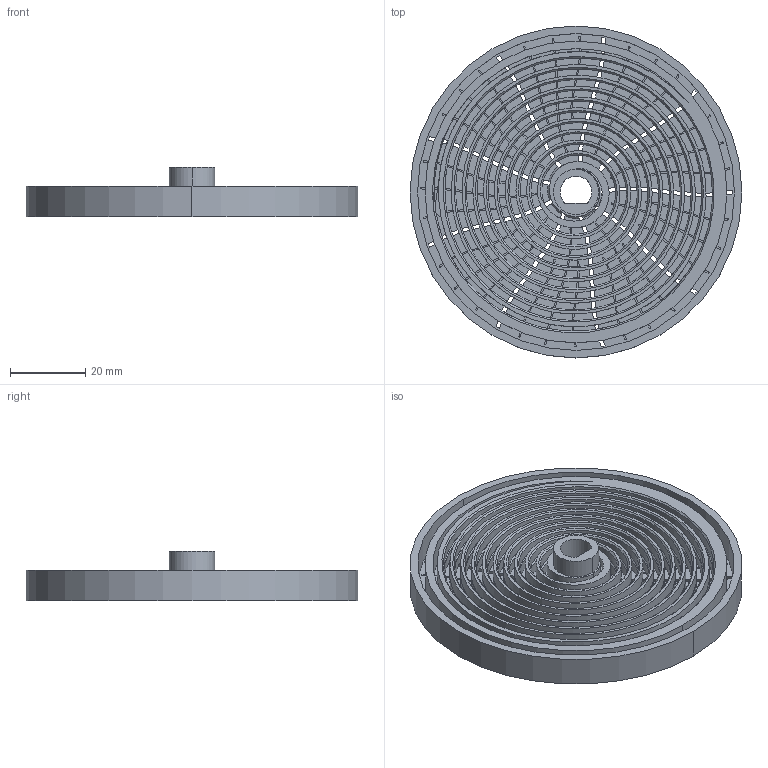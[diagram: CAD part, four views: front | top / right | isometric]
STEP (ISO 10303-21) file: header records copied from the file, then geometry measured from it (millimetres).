
FILE_DESCRIPTION (( 'STEP AP214' ), '1' );
FILE_NAME ('SpringFlat_Soft_v3.2.1.STEP', '2019-04-24T21:31:44', ( '' ), ( '' ), 'SwSTEP 2.0', 'SolidWorks 2018', '' );
FILE_SCHEMA (( 'AUTOMOTIVE_DESIGN' ));
Length unit declared in the file: millimetre
Products named in the file (1): SpringFlat_Soft_v3.2.1
Bounding box: 88 x 88 x 13 mm (x, y, z)
Volume: 24079.8 mm3; surface area: 46372.1 mm2
Topology: 1 solids, 1 shells, 281 faces, 772 edges, 513 vertices
Faces by surface type: cylinder 118, bspline 93, plane 61, cone 9
Entity records: 35322 total; most frequent: CARTESIAN_POINT 28649, ORIENTED_EDGE 1544, DIRECTION 1136, EDGE_CURVE 772, VERTEX_POINT 513, AXIS2_PLACEMENT_3D 453, EDGE_LOOP 325, ADVANCED_FACE 281
